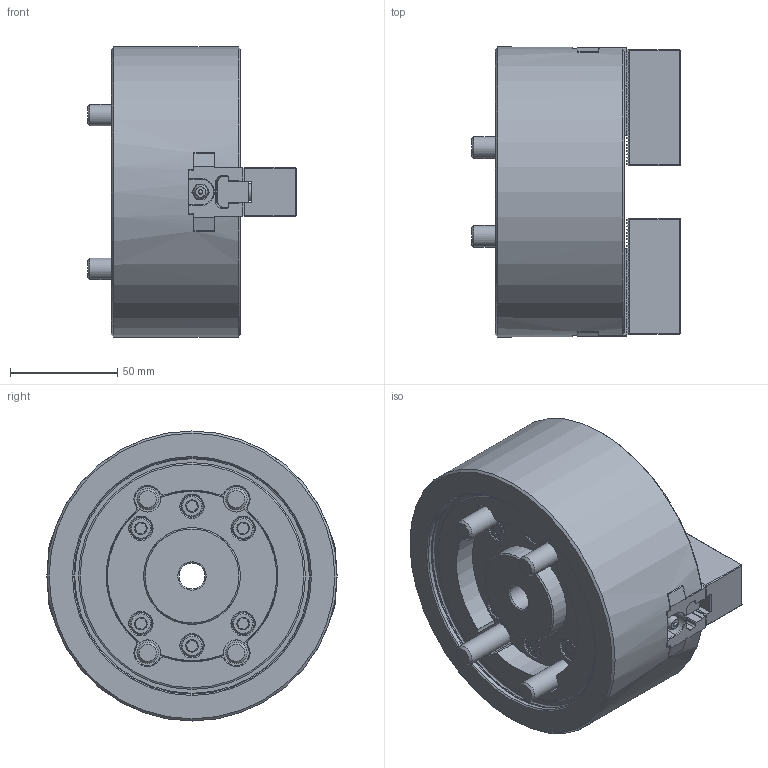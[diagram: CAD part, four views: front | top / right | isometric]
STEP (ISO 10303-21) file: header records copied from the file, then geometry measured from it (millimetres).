
FILE_DESCRIPTION (( 'STEP AP214' ), '1' );
FILE_NAME ('DT1_BT205_OUTSIDE_VIEW_UC.STEP', '2024-05-08T23:49:46', ( '' ), ( '' ), 'SwSTEP 2.0', 'SolidWorks 2022', '' );
FILE_SCHEMA (( 'AUTOMOTIVE_DESIGN' ));
Length unit declared in the file: millimetre
Products named in the file (9): DT1_BT205_M8x20^DT1-BT205_ﾃﾞﾌｫﾙﾄ; DT1_BT205_DRAWNUT^DT1-BT205_ﾃﾞﾌｫﾙﾄ; DT1_BT205_SOFTJAW^DT1-BT205_ﾃﾞﾌｫﾙﾄ; DT1_BT205_COVER^DT1-BT205_ﾃﾞﾌｫﾙﾄ; DT1_BT205_M10x60^DT1-BT205_ﾃﾞﾌｫﾙﾄ; DT1_BT205_BASE^DT1-BT205_ﾃﾞﾌｫﾙﾄ; DT1_BT205_OUTSIDE_VIEW_UC; DT1_BT205_M4x8^DT1-BT205_ﾃﾞﾌｫﾙﾄ; DT1_BT205_TNUT^DT1-BT205_ﾃﾞﾌｫﾙﾄ
Assembly tree (19 placements, depth 2):
  DT1_BT205_OUTSIDE_VIEW_UC
    DT1_BT205_SOFTJAW^DT1-BT205_ﾃﾞﾌｫﾙﾄ  x2
    DT1_BT205_TNUT^DT1-BT205_ﾃﾞﾌｫﾙﾄ  x2
    DT1_BT205_DRAWNUT^DT1-BT205_ﾃﾞﾌｫﾙﾄ
    DT1_BT205_COVER^DT1-BT205_ﾃﾞﾌｫﾙﾄ
    DT1_BT205_BASE^DT1-BT205_ﾃﾞﾌｫﾙﾄ
    DT1_BT205_M4x8^DT1-BT205_ﾃﾞﾌｫﾙﾄ  x4
    DT1_BT205_M8x20^DT1-BT205_ﾃﾞﾌｫﾙﾄ  x4
    DT1_BT205_M10x60^DT1-BT205_ﾃﾞﾌｫﾙﾄ  x4
Bounding box: 97 x 135 x 135 mm (x, y, z)
Volume: 790879.9 mm3; surface area: 137056.1 mm2
Topology: 19 solids, 27 shells, 2505 faces, 6933 edges, 4567 vertices
Faces by surface type: plane 1788, cylinder 454, cone 122, bspline 122, torus 15, sphere 4
Full cylindrical faces by diameter (mm): 3.3 x4, 4 x4, 4.5 x4, 6.8 x4, 7.5 x4, 8 x4, 8.5 x8, 10 x4, 10.22 x6, 10.5 x6, 12 x5, 13.27 x4, 13.5 x4, 16.27 x4, 17 x4, 33 x1, 36 x2, 40.5 x1, 43.5 x1, 45 x2, 110 x1, 110.8 x1, 135 x1
Entity records: 67910 total; most frequent: CARTESIAN_POINT 18155, ORIENTED_EDGE 10896, DIRECTION 9035, EDGE_CURVE 5448, VECTOR 4155, LINE 4155, VERTEX_POINT 3656, AXIS2_PLACEMENT_3D 2440
